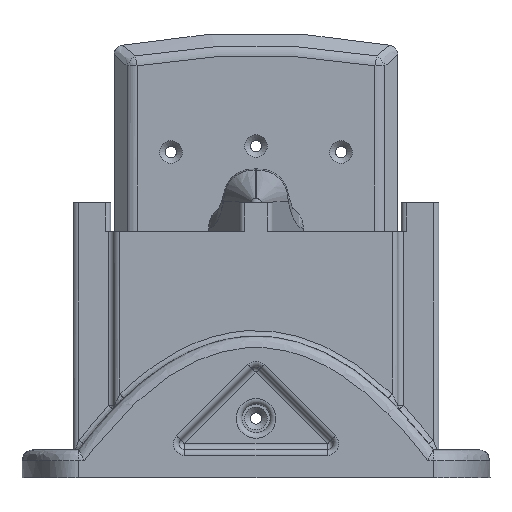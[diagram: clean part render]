
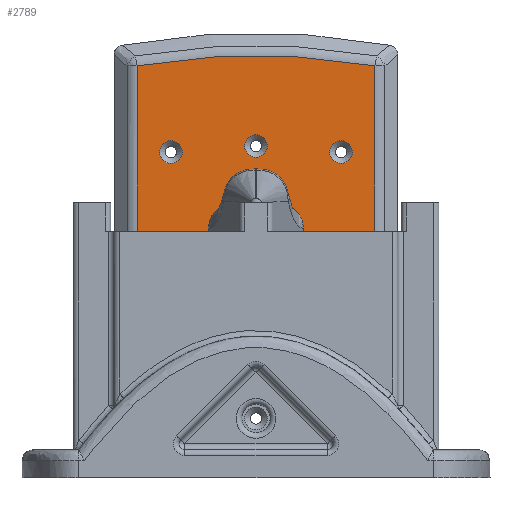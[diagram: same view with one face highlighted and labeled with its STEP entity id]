
A CAD part, front view. The second image highlights one B-rep face of the part: STEP entity #2789.
In plain terms, the highlighted planar face has unit normal (0, -1, 0).
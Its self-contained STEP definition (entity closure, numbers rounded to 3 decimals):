
#55=FACE_BOUND('',#691,.T.);
#56=FACE_BOUND('',#692,.T.);
#57=FACE_BOUND('',#693,.T.);
#83=PLANE('',#2996);
#129=LINE('',#4706,#274);
#131=LINE('',#4718,#276);
#159=LINE('',#5169,#304);
#160=LINE('',#5172,#305);
#274=VECTOR('',#3273,26.485);
#276=VECTOR('',#3287,26.485);
#304=VECTOR('',#3393,109.117);
#305=VECTOR('',#3396,109.117);
#507=FACE_OUTER_BOUND('',#690,.T.);
#690=EDGE_LOOP('',(#2039,#2040,#2041,#2042,#2043,#2044,#2045,#2046,#2047,
#2048));
#691=EDGE_LOOP('',(#2049));
#692=EDGE_LOOP('',(#2050));
#693=EDGE_LOOP('',(#2051));
#861=CIRCLE('',#2948,1.);
#865=CIRCLE('',#2954,11.5);
#869=CIRCLE('',#2959,1.);
#889=CIRCLE('',#2997,244.429);
#890=CIRCLE('',#2998,4.);
#891=CIRCLE('',#2999,4.);
#892=CIRCLE('',#3000,4.);
#1033=B_SPLINE_CURVE_WITH_KNOTS('',3,(#4678,#4679,#4680,#4681,#4682),
 .UNSPECIFIED.,.F.,.F.,(4,1,4),(-3.329,-1.427,0.),
 .UNSPECIFIED.);
#1035=B_SPLINE_CURVE_WITH_KNOTS('',3,(#4762,#4763,#4764,#4765,#4766),
 .UNSPECIFIED.,.F.,.F.,(4,1,4),(-3.329,-1.902,0.),
 .UNSPECIFIED.);
#1170=VERTEX_POINT('',#4638);
#1172=VERTEX_POINT('',#4676);
#1174=VERTEX_POINT('',#4698);
#1176=VERTEX_POINT('',#4704);
#1178=VERTEX_POINT('',#4710);
#1180=VERTEX_POINT('',#4716);
#1182=VERTEX_POINT('',#4730);
#1184=VERTEX_POINT('',#4760);
#1225=VERTEX_POINT('',#5168);
#1226=VERTEX_POINT('',#5170);
#1227=VERTEX_POINT('',#5173);
#1228=VERTEX_POINT('',#5175);
#1229=VERTEX_POINT('',#5177);
#1447=EDGE_CURVE('',#1172,#1170,#1033,.T.);
#1450=EDGE_CURVE('',#1174,#1172,#861,.T.);
#1453=EDGE_CURVE('',#1176,#1174,#129,.T.);
#1456=EDGE_CURVE('',#1178,#1176,#865,.T.);
#1459=EDGE_CURVE('',#1180,#1178,#131,.T.);
#1462=EDGE_CURVE('',#1182,#1180,#869,.T.);
#1465=EDGE_CURVE('',#1184,#1182,#1035,.T.);
#1531=EDGE_CURVE('',#1225,#1184,#159,.T.);
#1532=EDGE_CURVE('',#1226,#1225,#889,.T.);
#1533=EDGE_CURVE('',#1170,#1226,#160,.T.);
#1534=EDGE_CURVE('',#1227,#1227,#890,.T.);
#1535=EDGE_CURVE('',#1228,#1228,#891,.T.);
#1536=EDGE_CURVE('',#1229,#1229,#892,.T.);
#2039=ORIENTED_EDGE('',*,*,#1465,.F.);
#2040=ORIENTED_EDGE('',*,*,#1531,.F.);
#2041=ORIENTED_EDGE('',*,*,#1532,.F.);
#2042=ORIENTED_EDGE('',*,*,#1533,.F.);
#2043=ORIENTED_EDGE('',*,*,#1447,.F.);
#2044=ORIENTED_EDGE('',*,*,#1450,.F.);
#2045=ORIENTED_EDGE('',*,*,#1453,.F.);
#2046=ORIENTED_EDGE('',*,*,#1456,.F.);
#2047=ORIENTED_EDGE('',*,*,#1459,.F.);
#2048=ORIENTED_EDGE('',*,*,#1462,.F.);
#2049=ORIENTED_EDGE('',*,*,#1534,.T.);
#2050=ORIENTED_EDGE('',*,*,#1535,.T.);
#2051=ORIENTED_EDGE('',*,*,#1536,.T.);
#2789=ADVANCED_FACE('',(#507,#55,#56,#57),#83,.T.);
#2948=AXIS2_PLACEMENT_3D('',#4700,#3265,#3266);
#2954=AXIS2_PLACEMENT_3D('',#4712,#3279,#3280);
#2959=AXIS2_PLACEMENT_3D('',#4732,#3291,#3292);
#2996=AXIS2_PLACEMENT_3D('',#5167,#3391,#3392);
#2997=AXIS2_PLACEMENT_3D('',#5171,#3394,#3395);
#2998=AXIS2_PLACEMENT_3D('',#5174,#3397,#3398);
#2999=AXIS2_PLACEMENT_3D('',#5176,#3399,#3400);
#3000=AXIS2_PLACEMENT_3D('',#5178,#3401,#3402);
#3265=DIRECTION('center_axis',(0.,1.,0.));
#3266=DIRECTION('ref_axis',(0.767,0.,-0.642));
#3273=DIRECTION('',(0.,0.,-1.));
#3279=DIRECTION('center_axis',(0.,-1.,0.));
#3280=DIRECTION('ref_axis',(0.,0.,1.));
#3287=DIRECTION('',(0.,0.,1.));
#3291=DIRECTION('center_axis',(0.,1.,0.));
#3292=DIRECTION('ref_axis',(-0.767,0.,-0.642));
#3391=DIRECTION('center_axis',(0.,-1.,0.));
#3392=DIRECTION('ref_axis',(0.,0.,-1.));
#3393=DIRECTION('',(0.,0.,-1.));
#3394=DIRECTION('center_axis',(0.,1.,0.));
#3395=DIRECTION('ref_axis',(0.,0.,1.));
#3396=DIRECTION('',(0.,0.,1.));
#3397=DIRECTION('center_axis',(0.,1.,0.));
#3398=DIRECTION('ref_axis',(1.,0.,0.));
#3399=DIRECTION('center_axis',(0.,1.,0.));
#3400=DIRECTION('ref_axis',(1.,0.,0.));
#3401=DIRECTION('center_axis',(0.,1.,0.));
#3402=DIRECTION('ref_axis',(1.,0.,0.));
#4638=CARTESIAN_POINT('',(-41.929,60.,36.189));
#4676=CARTESIAN_POINT('',(-12.324,60.,50.389));
#4678=CARTESIAN_POINT('Ctrl Pts',(-12.324,60.,50.389));
#4679=CARTESIAN_POINT('Ctrl Pts',(-18.566,60.,49.271));
#4680=CARTESIAN_POINT('Ctrl Pts',(-29.24,60.,45.803));
#4681=CARTESIAN_POINT('Ctrl Pts',(-38.473,60.,39.456));
#4682=CARTESIAN_POINT('Ctrl Pts',(-41.929,60.,36.189));
#4698=CARTESIAN_POINT('',(-11.5,60.,51.373));
#4700=CARTESIAN_POINT('Origin',(-12.5,60.,51.373));
#4704=CARTESIAN_POINT('',(-11.5,60.,77.858));
#4706=CARTESIAN_POINT('',(-11.5,60.,59.847));
#4710=CARTESIAN_POINT('',(11.5,60.,77.858));
#4712=CARTESIAN_POINT('Origin',(0.,60.,77.858));
#4716=CARTESIAN_POINT('',(11.5,60.,51.373));
#4718=CARTESIAN_POINT('',(11.5,60.,72.999));
#4730=CARTESIAN_POINT('',(12.324,60.,50.389));
#4732=CARTESIAN_POINT('Origin',(12.5,60.,51.373));
#4760=CARTESIAN_POINT('',(41.929,60.,36.189));
#4762=CARTESIAN_POINT('Ctrl Pts',(41.929,60.,36.189));
#4763=CARTESIAN_POINT('Ctrl Pts',(38.473,60.,39.456));
#4764=CARTESIAN_POINT('Ctrl Pts',(29.24,60.,45.803));
#4765=CARTESIAN_POINT('Ctrl Pts',(18.566,60.,49.271));
#4766=CARTESIAN_POINT('Ctrl Pts',(12.324,60.,50.389));
#5167=CARTESIAN_POINT('Origin',(0.,60.,72.641));
#5168=CARTESIAN_POINT('',(41.929,60.,145.306));
#5169=CARTESIAN_POINT('',(41.929,60.,56.981));
#5170=CARTESIAN_POINT('',(-41.929,60.,145.306));
#5171=CARTESIAN_POINT('Origin',(0.,60.,-95.5));
#5172=CARTESIAN_POINT('',(-41.929,60.,54.481));
#5173=CARTESIAN_POINT('',(4.,60.,117.));
#5174=CARTESIAN_POINT('Origin',(0.,60.,117.));
#5175=CARTESIAN_POINT('',(-26.,60.,114.872));
#5176=CARTESIAN_POINT('Origin',(-30.,60.,114.872));
#5177=CARTESIAN_POINT('',(34.,60.,114.872));
#5178=CARTESIAN_POINT('Origin',(30.,60.,114.872));
